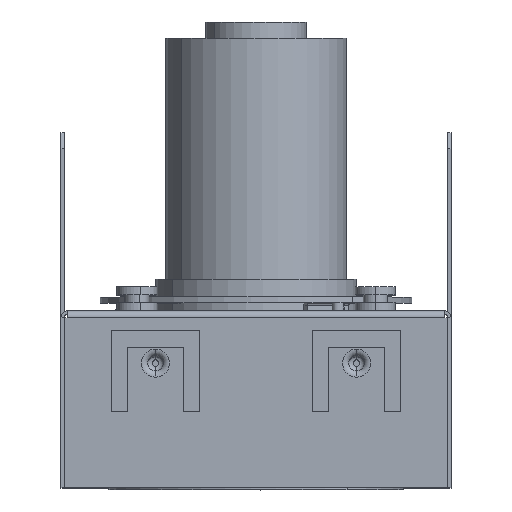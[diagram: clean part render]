
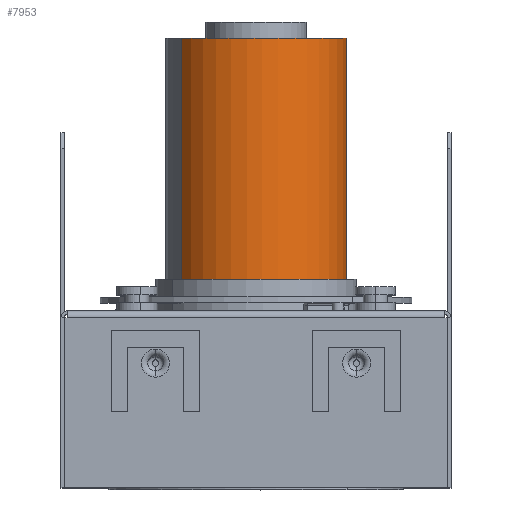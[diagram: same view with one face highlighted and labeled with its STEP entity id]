
A CAD part, top view. The second image highlights one B-rep face of the part: STEP entity #7953.
In plain terms, the highlighted cylindrical face has radius 22.5 mm (diameter 45 mm), a partial arc.
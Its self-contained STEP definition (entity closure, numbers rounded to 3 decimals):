
#779 = VERTEX_POINT ( 'NONE', #13701 ) ;
#1383 = CARTESIAN_POINT ( 'NONE',  ( 0., 82.3, -22.5 ) ) ;
#1518 = DIRECTION ( 'NONE',  ( 0., -1., 0. ) ) ;
#1524 = FACE_OUTER_BOUND ( 'NONE', #6961, .T. ) ;
#1559 = EDGE_CURVE ( 'NONE', #779, #2190, #7003, .T. ) ;
#2029 = EDGE_CURVE ( 'NONE', #779, #10648, #5599, .T. ) ;
#2190 = VERTEX_POINT ( 'NONE', #12976 ) ;
#2351 = VECTOR ( 'NONE', #14177, 1000. ) ;
#2444 = AXIS2_PLACEMENT_3D ( 'NONE', #13006, #13051, #13380 ) ;
#3040 = ORIENTED_EDGE ( 'NONE', *, *, #2029, .T. ) ;
#3262 = EDGE_CURVE ( 'NONE', #10648, #13296, #10915, .T. ) ;
#3968 = EDGE_CURVE ( 'NONE', #2190, #13296, #10355, .T. ) ;
#5599 = LINE ( 'NONE', #14126, #2351 ) ;
#5630 = ORIENTED_EDGE ( 'NONE', *, *, #1559, .F. ) ;
#5969 = ORIENTED_EDGE ( 'NONE', *, *, #3262, .T. ) ;
#5988 = DIRECTION ( 'NONE',  ( 0., 0., 1. ) ) ;
#6001 = DIRECTION ( 'NONE',  ( 0., 1., 0. ) ) ;
#6014 = CARTESIAN_POINT ( 'NONE',  ( 0., 22.3, 0. ) ) ;
#6336 = ORIENTED_EDGE ( 'NONE', *, *, #3968, .F. ) ;
#6961 = EDGE_LOOP ( 'NONE', ( #5630, #3040, #5969, #6336 ) ) ;
#7003 = CIRCLE ( 'NONE', #2444, 22.5 ) ;
#7953 = ADVANCED_FACE ( 'NONE', ( #1524 ), #8900, .T. ) ;
#8900 = CYLINDRICAL_SURFACE ( 'NONE', #10801, 22.5 ) ;
#9357 = AXIS2_PLACEMENT_3D ( 'NONE', #6014, #6001, #5988 ) ;
#10355 = LINE ( 'NONE', #1383, #12958 ) ;
#10648 = VERTEX_POINT ( 'NONE', #14111 ) ;
#10801 = AXIS2_PLACEMENT_3D ( 'NONE', #13249, #13343, #13016 ) ;
#10915 = CIRCLE ( 'NONE', #9357, 22.5 ) ;
#12958 = VECTOR ( 'NONE', #1518, 1000. ) ;
#12976 = CARTESIAN_POINT ( 'NONE',  ( 0., 82.3, -22.5 ) ) ;
#13006 = CARTESIAN_POINT ( 'NONE',  ( 0., 82.3, 0. ) ) ;
#13016 = DIRECTION ( 'NONE',  ( 0., 0., -1. ) ) ;
#13051 = DIRECTION ( 'NONE',  ( 0., 1., 0. ) ) ;
#13249 = CARTESIAN_POINT ( 'NONE',  ( 0., 82.3, 0. ) ) ;
#13296 = VERTEX_POINT ( 'NONE', #13409 ) ;
#13343 = DIRECTION ( 'NONE',  ( 0., -1., 0. ) ) ;
#13380 = DIRECTION ( 'NONE',  ( 0., 0., 1. ) ) ;
#13409 = CARTESIAN_POINT ( 'NONE',  ( 0., 22.3, -22.5 ) ) ;
#13701 = CARTESIAN_POINT ( 'NONE',  ( 0., 82.3, 22.5 ) ) ;
#14111 = CARTESIAN_POINT ( 'NONE',  ( 0., 22.3, 22.5 ) ) ;
#14126 = CARTESIAN_POINT ( 'NONE',  ( 0., 82.3, 22.5 ) ) ;
#14177 = DIRECTION ( 'NONE',  ( 0., -1., 0. ) ) ;
